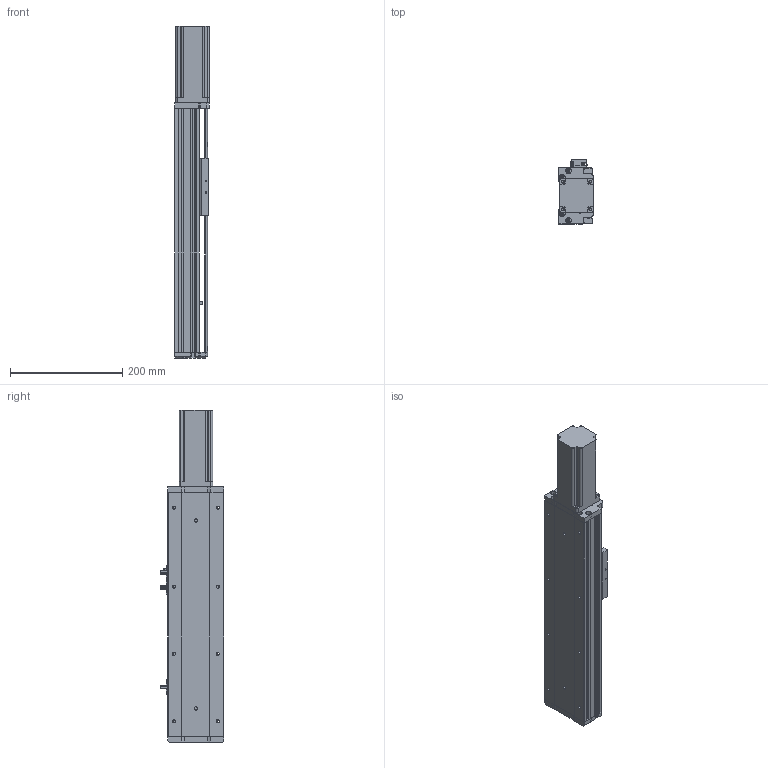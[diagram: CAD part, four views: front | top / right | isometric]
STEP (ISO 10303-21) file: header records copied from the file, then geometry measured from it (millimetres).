
FILE_DESCRIPTION (( 'STEP AP203' ), '1' );
FILE_NAME ('KSD100S-S200-MN-CM .STEP', '2019-08-30T06:50:55', ( '微软用户' ), ( '微软中国' ), 'SwSTEP 2.0', 'SolidWorks 2014', '' );
FILE_SCHEMA (( 'CONFIG_CONTROL_DESIGN' ));
Length unit declared in the file: millimetre
Products named in the file (9): 台达ECMA－C20604AS伺服电机; 100宽底板半封闭200行程丝杆不带电机座; 100遵傷啣; 100宽滚珠螺姆安装板半封闭; KSD100S-S200-MN-CM ; 100宽马达安装板不带电机座; 100宽防尘板丝杆200行程不带电机座; U倰嫖萇EEㄜSX672; 覜茼え100遵圉猾敕
Assembly tree (10 placements, depth 2):
  KSD100S-S200-MN-CM 
    100宽底板半封闭200行程丝杆不带电机座
    100遵傷啣
    100宽滚珠螺姆安装板半封闭
    100宽马达安装板不带电机座
    100宽防尘板丝杆200行程不带电机座
    U倰嫖萇EEㄜSX672  x3
    覜茼え100遵圉猾敕
    台达ECMA－C20604AS伺服电机
Bounding box: 62 x 113.7 x 592 mm (x, y, z)
Volume: 1436876.3 mm3; surface area: 396634.6 mm2
Topology: 11 solids, 11 shells, 982 faces, 2756 edges, 1757 vertices
Faces by surface type: plane 444, cylinder 443, cone 95
Entity records: 27396 total; most frequent: CARTESIAN_POINT 5936, DIRECTION 4375, ORIENTED_EDGE 4228, EDGE_CURVE 2114, AXIS2_PLACEMENT_3D 1560, VERTEX_POINT 1381, LINE 1255, VECTOR 1255
